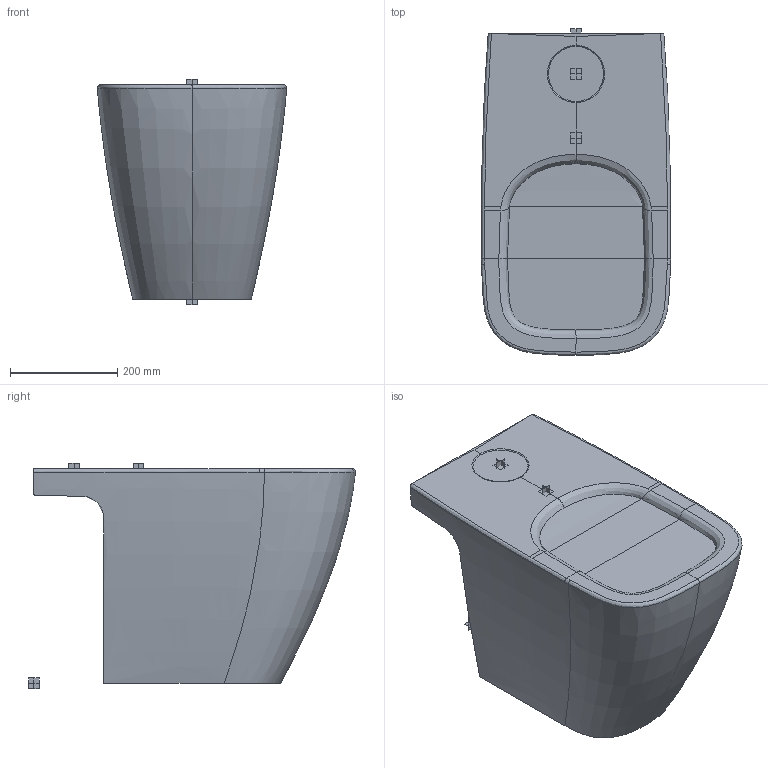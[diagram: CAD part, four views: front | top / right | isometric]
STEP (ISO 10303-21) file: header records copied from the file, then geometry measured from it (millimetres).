
FILE_DESCRIPTION((''),'2;1');
FILE_NAME('T4596_MK1_3DPL','2022-03-15T09:35:48',('HristovG'),('IDEAL STANDARD BVBA'),'CREO PARAMETRIC BY PTC INC, 2020281','CREO PARAMETRIC BY PTC INC, 2020281','');
FILE_SCHEMA(('AP242_MANAGED_MODEL_BASED_3D_ENGINEERING_MIM_LF { 1 0 10303 442 1 1 4 }'));
Length unit declared in the file: millimetre
Products named in the file (1): T4596_MK1_3DPL
Bounding box: 352.97 x 609.75 x 420 mm (x, y, z)
Volume: 48663835.9 mm3; surface area: 918768.6 mm2
Topology: 1 solids, 11 shells, 57 faces, 182 edges, 143 vertices
Faces by surface type: bspline 26, plane 20, extrusion 5, cone 4, torus 2
Entity records: 8611 total; most frequent: CARTESIAN_POINT 6813, ORIENTED_EDGE 280, DIRECTION 179, EDGE_CURVE 163, VERTEX_POINT 120, B_SPLINE_CURVE_WITH_KNOTS 99, VECTOR 67, LINE 62
